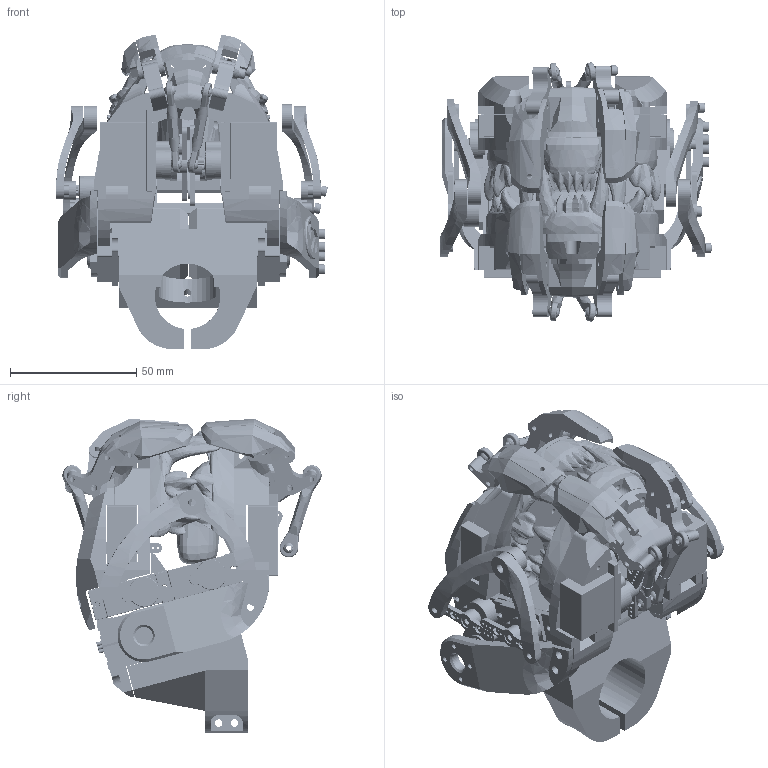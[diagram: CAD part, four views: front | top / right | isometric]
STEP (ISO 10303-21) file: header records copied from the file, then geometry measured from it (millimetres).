
FILE_DESCRIPTION(/* description */ (''),/* implementation_level */ '2;1');
FILE_NAME(/* name */ 'D:/User/Projects/Animatronic Mouth/0 Animatronic_Mouth_Download_Pack/STLs/Tongue and Teeth/Animatronic Mouth CAD.step',/* time_stamp */ '2020-01-24T17:23:26+00:00',/* author */ (''),/* organization */ (''),/* preprocessor_version */ 'ST-DEVELOPER v18',/* originating_system */ 'Autodesk Translation Framework v8.12.0.6',/* authorisation */ '');
FILE_SCHEMA (('AUTOMOTIVE_DESIGN { 1 0 10303 214 3 1 1 }'));
Products named in the file (82): Cat Mouth II; MG996R v3; Component61; MG90S with horn; MG90S with horn_1; Microservo horn v2; MG90S with horn v1(Mirror); MG90s_servo_FIX v1(Mirror); Microservo horn v2(Mirror); MG90S with horn v1(Mirror)(Mirror); Lip Top Linkage; Top Base; MG90S with horn v1(Mirror)(Mirror)_1; MG90s_servo_FIX v1(Mirror)(Mirror); Microservo horn v2(Mirror)(Mirror); MG90S with horn v1(Mirror)(Mirror)(Mirror); MG90s_servo_FIX v1(Mirror)(Mirror)(Mirror); Microservo horn v2(Mirror)(Mirror)(Mirror); Jaw Linkage; MG996R Mirror; M2 Ball Link v1; M2 Ball Link v1_1; alibaba socket; Component36; alibaba socket(Mirror) (1); Component2(Mirror) (3); MG90S with horn v2(Mirror); MG90S with horn v2(Mirror)_1; MG90s_servo_FIX v1(Mirror) (1); Microservo horn v2(Mirror) (1); Bottom Base; Tongue; Front Tongue Linkage; Rear Tongue Linkage; Tongue sLink; Teeth; Mouth Assembley_Teeth v5; Top Teeth; Component98; Component95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
Assembly tree (111 placements, depth 4):
  Cat Mouth II
    MG996R v3
      Component61
    MG90S with horn
      Microservo horn v2
    MG90S with horn_1
      Microservo horn v2
    MG90S with horn v1(Mirror)
      MG90s_servo_FIX v1(Mirror)
      Microservo horn v2(Mirror)
    MG90S with horn v1(Mirror)(Mirror)
      MG90s_servo_FIX v1(Mirror)(Mirror)
      Microservo horn v2(Mirror)(Mirror)
    Lip Top Linkage
    Top Base
    MG90S with horn v1(Mirror)(Mirror)_1
      MG90s_servo_FIX v1(Mirror)(Mirror)
      Microservo horn v2(Mirror)(Mirror)
    MG90S with horn v1(Mirror)(Mirror)(Mirror)
      MG90s_servo_FIX v1(Mirror)(Mirror)(Mirror)
      Microservo horn v2(Mirror)(Mirror)(Mirror)
    Jaw Linkage
    MG996R Mirror
    M2 Ball Link v1
      alibaba socket
      Component36
      alibaba socket(Mirror) (1)
      Component2(Mirror) (3)
    M2 Ball Link v1_1
      alibaba socket
      Component36
      alibaba socket(Mirror) (1)
      Component2(Mirror) (3)
    MG90S with horn v2(Mirror)
      MG90s_servo_FIX v1(Mirror) (1)
      Microservo horn v2(Mirror) (1)
    MG90S with horn v2(Mirror)_1
      MG90s_servo_FIX v1(Mirror) (1)
      Microservo horn v2(Mirror) (1)
    Bottom Base
    Tongue
    Front Tongue Linkage
    Rear Tongue Linkage
    Tongue sLink
    Teeth
    Mouth Assembley_Teeth v5
      Top Teeth
        Component98
        Component95
        Component97
        Component96
        Top Gum
        Top Teeth Base
    Servo Block 01
    Over Top Support
    Over Top Support (1)
    Jaw Linkage(Mirror) (1)
    Screws
      Component66  x18
    Upper Lip New
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Bounding box: 107.75 x 102.85 x 124.73 mm (x, y, z)
Volume: 285812.9 mm3; surface area: 151975.8 mm2
Topology: 264 solids, 264 shells, 8020 faces, 20883 edges, 13530 vertices
Faces by surface type: plane 4033, bspline 2274, cylinder 1393, sphere 204, torus 70, cone 46
Full cylindrical faces by diameter (mm): 1 x95, 2 x90, 2.5 x23, 2.6 x33, 3 x23, 3.5 x6, 3.6 x11, 4.069 x18, 4.4 x8, 4.5 x6, 4.55 x6, 5 x17, 6.5 x1, 7 x2, 7.5 x8, 11 x2, 13 x2, 17.218 x1
Entity records: 303781 total; most frequent: CARTESIAN_POINT 165800, ORIENTED_EDGE 29846, DIRECTION 22351, EDGE_CURVE 14923, VERTEX_POINT 9819, LINE 8597, VECTOR 8597, AXIS2_PLACEMENT_3D 6877
